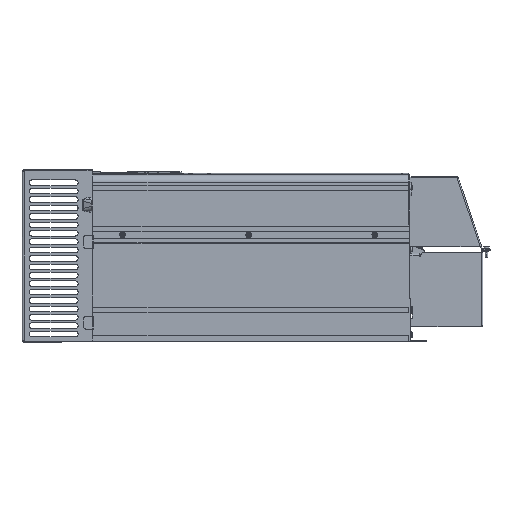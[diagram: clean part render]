
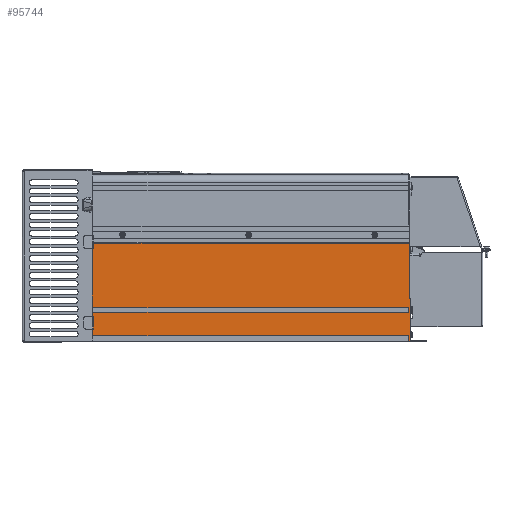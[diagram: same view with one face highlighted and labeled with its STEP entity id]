
A CAD part, left-side view. The second image highlights one B-rep face of the part: STEP entity #95744.
In plain terms, the highlighted planar face has unit normal (-1, 0, 0).
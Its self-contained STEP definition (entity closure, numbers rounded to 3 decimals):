
#3443=DIRECTION('',(0.,0.,1.));
#3444=VECTOR('',#3443,8.);
#3445=CARTESIAN_POINT('',(-115.,-227.95,1.1));
#3446=LINE('',#3445,#3444);
#3467=DIRECTION('',(0.,0.,1.));
#3468=VECTOR('',#3467,6.6);
#3469=CARTESIAN_POINT('',(-115.,-227.95,42.1));
#3470=LINE('',#3469,#3468);
#5292=DIRECTION('',(0.,-1.,0.));
#5293=VECTOR('',#5292,1.);
#5294=CARTESIAN_POINT('',(-115.,-229.45,62.5));
#5295=LINE('',#5294,#5293);
#5296=DIRECTION('',(0.,0.,-1.));
#5297=VECTOR('',#5296,60.);
#5298=CARTESIAN_POINT('',(-115.,-230.45,62.5));
#5299=LINE('',#5298,#5297);
#5300=DIRECTION('',(0.,-1.,0.));
#5301=VECTOR('',#5300,17.8);
#5302=CARTESIAN_POINT('',(-115.,-230.45,2.5));
#5303=LINE('',#5302,#5301);
#5304=DIRECTION('',(0.,0.,1.));
#5305=VECTOR('',#5304,2.5);
#5306=CARTESIAN_POINT('',(-115.,-248.25,0.));
#5307=LINE('',#5306,#5305);
#5308=DIRECTION('',(0.,0.,1.));
#5309=VECTOR('',#5308,1.);
#5310=CARTESIAN_POINT('',(-115.,211.75,0.));
#5311=LINE('',#5310,#5309);
#5312=DIRECTION('',(0.,1.,0.));
#5313=VECTOR('',#5312,12.);
#5314=CARTESIAN_POINT('',(-115.,211.75,1.));
#5315=LINE('',#5314,#5313);
#5316=DIRECTION('',(0.,0.,1.));
#5317=VECTOR('',#5316,1.);
#5318=CARTESIAN_POINT('',(-115.,223.75,0.));
#5319=LINE('',#5318,#5317);
#5320=DIRECTION('',(0.,-1.,0.));
#5321=VECTOR('',#5320,451.7);
#5322=CARTESIAN_POINT('',(-115.,223.75,1.1));
#5323=LINE('',#5322,#5321);
#5324=DIRECTION('',(0.,-1.,0.));
#5325=VECTOR('',#5324,451.7);
#5326=CARTESIAN_POINT('',(-115.,223.75,9.1));
#5327=LINE('',#5326,#5325);
#5328=DIRECTION('',(0.,0.,-1.));
#5329=VECTOR('',#5328,12.4);
#5330=CARTESIAN_POINT('',(-115.,223.75,21.5));
#5331=LINE('',#5330,#5329);
#5332=DIRECTION('',(0.,0.,-1.));
#5333=VECTOR('',#5332,8.6);
#5334=CARTESIAN_POINT('',(-115.,223.75,42.1));
#5335=LINE('',#5334,#5333);
#5336=DIRECTION('',(0.,-1.,0.));
#5337=VECTOR('',#5336,451.7);
#5338=CARTESIAN_POINT('',(-115.,223.75,42.1));
#5339=LINE('',#5338,#5337);
#5340=DIRECTION('',(0.,-1.,0.));
#5341=VECTOR('',#5340,451.7);
#5342=CARTESIAN_POINT('',(-115.,223.75,48.7));
#5343=LINE('',#5342,#5341);
#5344=DIRECTION('',(0.,0.,-1.));
#5345=VECTOR('',#5344,87.8);
#5346=CARTESIAN_POINT('',(-115.,223.75,136.5));
#5347=LINE('',#5346,#5345);
#6280=DIRECTION('',(0.,0.,-1.));
#6281=VECTOR('',#6280,12.);
#6282=CARTESIAN_POINT('',(-115.,223.75,33.5));
#6283=LINE('',#6282,#6281);
#6680=DIRECTION('',(0.,0.,1.));
#6681=VECTOR('',#6680,1.4);
#6682=CARTESIAN_POINT('',(-115.,223.75,1.1));
#6683=LINE('',#6682,#6681);
#6782=DIRECTION('',(0.,0.,-1.));
#6783=VECTOR('',#6782,4.6);
#6784=CARTESIAN_POINT('',(-115.,223.75,141.1));
#6785=LINE('',#6784,#6783);
#15781=DIRECTION('',(0.,0.,-1.));
#15782=VECTOR('',#15781,78.6);
#15783=CARTESIAN_POINT('',(-115.,-229.45,141.1));
#15784=LINE('',#15783,#15782);
#18567=DIRECTION('',(0.,1.,0.));
#18568=VECTOR('',#18567,33.);
#18569=CARTESIAN_POINT('',(-115.,226.75,2.5));
#18570=LINE('',#18569,#18568);
#18907=DIRECTION('',(0.,1.,0.));
#18908=VECTOR('',#18907,453.2);
#18909=CARTESIAN_POINT('',(-115.,-229.45,141.1));
#18910=LINE('',#18909,#18908);
#19195=DIRECTION('',(0.,1.,0.));
#19196=VECTOR('',#19195,3.);
#19197=CARTESIAN_POINT('',(-115.,223.75,2.5));
#19198=LINE('',#19197,#19196);
#37250=DIRECTION('',(0.,0.,1.));
#37251=VECTOR('',#37250,2.5);
#37252=CARTESIAN_POINT('',(-115.,259.75,0.));
#37253=LINE('',#37252,#37251);
#37310=DIRECTION('',(0.,-1.,0.));
#37311=VECTOR('',#37310,36.);
#37312=CARTESIAN_POINT('',(-115.,259.75,0.));
#37313=LINE('',#37312,#37311);
#37354=DIRECTION('',(0.,-1.,0.));
#37355=VECTOR('',#37354,460.);
#37356=CARTESIAN_POINT('',(-115.,211.75,0.));
#37357=LINE('',#37356,#37355);
#74269=CARTESIAN_POINT('',(-115.,223.75,136.5));
#74270=VERTEX_POINT('',#74269);
#74341=CARTESIAN_POINT('',(-115.,223.75,21.5));
#74343=VERTEX_POINT('',#74341);
#74345=CARTESIAN_POINT('',(-115.,223.75,33.5));
#74347=VERTEX_POINT('',#74345);
#76028=CARTESIAN_POINT('',(-115.,223.75,9.1));
#76029=VERTEX_POINT('',#76028);
#76034=CARTESIAN_POINT('',(-115.,223.75,141.1));
#76035=VERTEX_POINT('',#76034);
#76084=CARTESIAN_POINT('',(-115.,259.75,0.));
#76086=VERTEX_POINT('',#76084);
#76094=CARTESIAN_POINT('',(-115.,259.75,2.5));
#76096=VERTEX_POINT('',#76094);
#76102=CARTESIAN_POINT('',(-115.,226.75,2.5));
#76103=VERTEX_POINT('',#76102);
#76108=CARTESIAN_POINT('',(-115.,223.75,1.1));
#76109=CARTESIAN_POINT('',(-115.,223.75,2.5));
#76110=VERTEX_POINT('',#76108);
#76111=VERTEX_POINT('',#76109);
#76140=CARTESIAN_POINT('',(-115.,-227.95,1.1));
#76141=CARTESIAN_POINT('',(-115.,-227.95,9.1));
#76142=VERTEX_POINT('',#76140);
#76143=VERTEX_POINT('',#76141);
#76180=CARTESIAN_POINT('',(-115.,-248.25,2.5));
#76182=VERTEX_POINT('',#76180);
#76186=CARTESIAN_POINT('',(-115.,-248.25,0.));
#76187=VERTEX_POINT('',#76186);
#76196=CARTESIAN_POINT('',(-115.,-230.45,2.5));
#76197=VERTEX_POINT('',#76196);
#76244=CARTESIAN_POINT('',(-115.,-230.45,62.5));
#76245=VERTEX_POINT('',#76244);
#77442=CARTESIAN_POINT('',(-115.,223.75,48.7));
#77443=VERTEX_POINT('',#77442);
#77448=CARTESIAN_POINT('',(-115.,223.75,42.1));
#77449=VERTEX_POINT('',#77448);
#77458=CARTESIAN_POINT('',(-115.,-227.95,42.1));
#77459=CARTESIAN_POINT('',(-115.,-227.95,48.7));
#77460=VERTEX_POINT('',#77458);
#77461=VERTEX_POINT('',#77459);
#79062=CARTESIAN_POINT('',(-115.,211.75,1.));
#79063=CARTESIAN_POINT('',(-115.,223.75,1.));
#79064=VERTEX_POINT('',#79062);
#79065=VERTEX_POINT('',#79063);
#79066=CARTESIAN_POINT('',(-115.,211.75,0.));
#79067=VERTEX_POINT('',#79066);
#79068=CARTESIAN_POINT('',(-115.,223.75,0.));
#79069=VERTEX_POINT('',#79068);
#84432=CARTESIAN_POINT('',(-115.,-229.45,141.1));
#84433=VERTEX_POINT('',#84432);
#84500=CARTESIAN_POINT('',(-115.,-229.45,62.5));
#84502=VERTEX_POINT('',#84500);
#95688=CARTESIAN_POINT('',(-115.,223.75,227.));
#95689=DIRECTION('',(-1.,0.,0.));
#95690=DIRECTION('',(0.,0.,-1.));
#95691=AXIS2_PLACEMENT_3D('',#95688,#95689,#95690);
#95692=PLANE('',#95691);
#95694=ORIENTED_EDGE('',*,*,#95693,.F.);
#95696=ORIENTED_EDGE('',*,*,#95695,.T.);
#95698=ORIENTED_EDGE('',*,*,#95697,.T.);
#95699=ORIENTED_EDGE('',*,*,#91737,.T.);
#95701=ORIENTED_EDGE('',*,*,#95700,.T.);
#95703=ORIENTED_EDGE('',*,*,#95702,.F.);
#95705=ORIENTED_EDGE('',*,*,#95704,.F.);
#95707=ORIENTED_EDGE('',*,*,#95706,.T.);
#95709=ORIENTED_EDGE('',*,*,#95708,.T.);
#95711=ORIENTED_EDGE('',*,*,#95710,.F.);
#95713=ORIENTED_EDGE('',*,*,#95712,.F.);
#95715=ORIENTED_EDGE('',*,*,#95714,.T.);
#95717=ORIENTED_EDGE('',*,*,#95716,.F.);
#95719=ORIENTED_EDGE('',*,*,#95718,.F.);
#95721=ORIENTED_EDGE('',*,*,#95720,.F.);
#95723=ORIENTED_EDGE('',*,*,#95722,.T.);
#95724=ORIENTED_EDGE('',*,*,#91968,.T.);
#95726=ORIENTED_EDGE('',*,*,#95725,.F.);
#95728=ORIENTED_EDGE('',*,*,#95727,.F.);
#95730=ORIENTED_EDGE('',*,*,#95729,.F.);
#95732=ORIENTED_EDGE('',*,*,#95731,.F.);
#95734=ORIENTED_EDGE('',*,*,#95733,.T.);
#95735=ORIENTED_EDGE('',*,*,#92014,.T.);
#95737=ORIENTED_EDGE('',*,*,#95736,.F.);
#95739=ORIENTED_EDGE('',*,*,#95738,.F.);
#95741=ORIENTED_EDGE('',*,*,#95740,.F.);
#95742=EDGE_LOOP('',(#95694,#95696,#95698,#95699,#95701,#95703,#95705,#95707,
#95709,#95711,#95713,#95715,#95717,#95719,#95721,#95723,#95724,#95726,#95728,
#95730,#95732,#95734,#95735,#95737,#95739,#95741));
#95743=FACE_OUTER_BOUND('',#95742,.F.);
#95744=ADVANCED_FACE('',(#95743),#95692,.T.);
#91737=EDGE_CURVE('',#76245,#76197,#5299,.T.);
#91968=EDGE_CURVE('',#76142,#76143,#3446,.T.);
#92014=EDGE_CURVE('',#77460,#77461,#3470,.T.);
#95693=EDGE_CURVE('',#84433,#76035,#18910,.T.);
#95695=EDGE_CURVE('',#84433,#84502,#15784,.T.);
#95697=EDGE_CURVE('',#84502,#76245,#5295,.T.);
#95700=EDGE_CURVE('',#76197,#76182,#5303,.T.);
#95702=EDGE_CURVE('',#76187,#76182,#5307,.T.);
#95704=EDGE_CURVE('',#79067,#76187,#37357,.T.);
#95706=EDGE_CURVE('',#79067,#79064,#5311,.T.);
#95708=EDGE_CURVE('',#79064,#79065,#5315,.T.);
#95710=EDGE_CURVE('',#79069,#79065,#5319,.T.);
#95712=EDGE_CURVE('',#76086,#79069,#37313,.T.);
#95714=EDGE_CURVE('',#76086,#76096,#37253,.T.);
#95716=EDGE_CURVE('',#76103,#76096,#18570,.T.);
#95718=EDGE_CURVE('',#76111,#76103,#19198,.T.);
#95720=EDGE_CURVE('',#76110,#76111,#6683,.T.);
#95722=EDGE_CURVE('',#76110,#76142,#5323,.T.);
#95725=EDGE_CURVE('',#76029,#76143,#5327,.T.);
#95727=EDGE_CURVE('',#74343,#76029,#5331,.T.);
#95729=EDGE_CURVE('',#74347,#74343,#6283,.T.);
#95731=EDGE_CURVE('',#77449,#74347,#5335,.T.);
#95733=EDGE_CURVE('',#77449,#77460,#5339,.T.);
#95736=EDGE_CURVE('',#77443,#77461,#5343,.T.);
#95738=EDGE_CURVE('',#74270,#77443,#5347,.T.);
#95740=EDGE_CURVE('',#76035,#74270,#6785,.T.);
